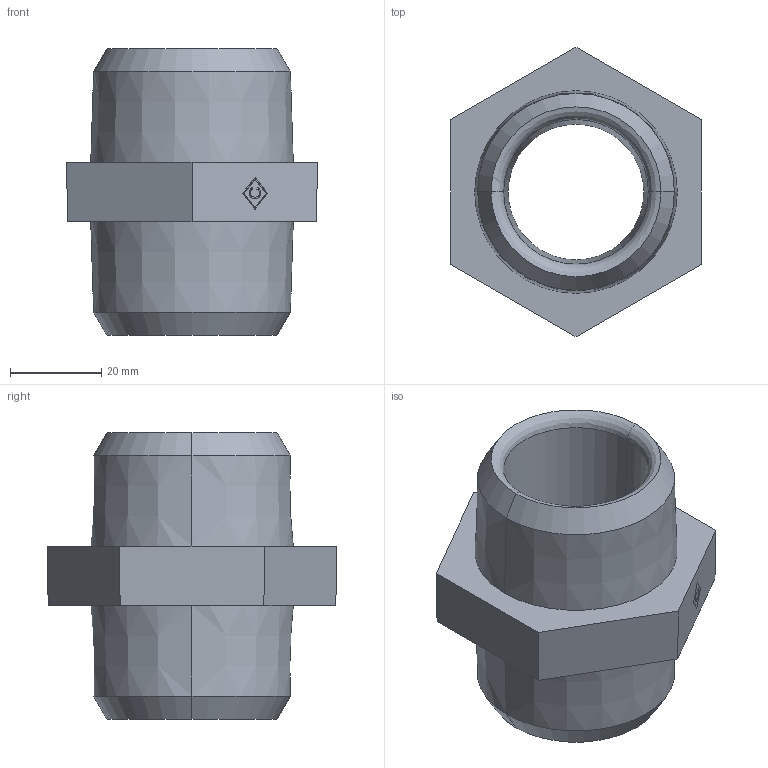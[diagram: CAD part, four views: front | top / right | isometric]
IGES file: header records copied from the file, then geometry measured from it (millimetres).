
Global section: file name: No Iges File Name specified; native system: AutoDesk Inventor R12.0; preprocessor: AutoDesk Inventor Iges Exporter R12.0; date: 20090914.143046; units: millimetre
Bounding box: 55.04 x 63.56 x 63 mm (x, y, z)
Volume: 59356.2 mm3; surface area: 18031.8 mm2
Topology: 1 solids, 1 shells, 45 faces, 106 edges, 66 vertices
Faces by surface type: plane 21, bspline 12, cone 8, revolution 4
